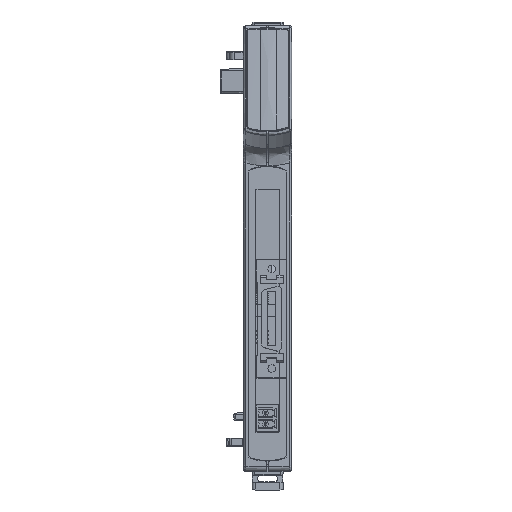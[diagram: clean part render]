
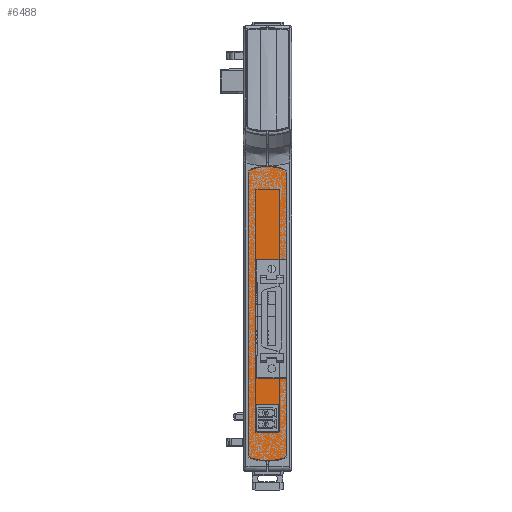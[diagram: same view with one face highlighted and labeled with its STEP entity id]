
A CAD part, top view. The second image highlights one B-rep face of the part: STEP entity #6488.
In plain terms, the highlighted planar face has unit normal (0, 0, 1).
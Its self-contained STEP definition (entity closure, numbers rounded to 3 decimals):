
#1223=FACE_BOUND('',#19021,.T.);
#6488=ADVANCED_FACE('',(#12612,#1223),#100989,.T.);
#12612=FACE_OUTER_BOUND('',#19020,.T.);
#19020=EDGE_LOOP('',(#48763,#48764,#48765,#48766,#48767,#48768,#48769,#48770,
#48771,#48772,#48773,#48774));
#19021=EDGE_LOOP('',(#48775,#48776,#48777,#48778));
#48763=ORIENTED_EDGE('',*,*,#67830,.T.);
#48764=ORIENTED_EDGE('',*,*,#67831,.T.);
#48765=ORIENTED_EDGE('',*,*,#67870,.T.);
#48766=ORIENTED_EDGE('',*,*,#67873,.T.);
#48767=ORIENTED_EDGE('',*,*,#67876,.T.);
#48768=ORIENTED_EDGE('',*,*,#67832,.T.);
#48769=ORIENTED_EDGE('',*,*,#67858,.T.);
#48770=ORIENTED_EDGE('',*,*,#67862,.T.);
#48771=ORIENTED_EDGE('',*,*,#67865,.T.);
#48772=ORIENTED_EDGE('',*,*,#67833,.T.);
#48773=ORIENTED_EDGE('',*,*,#67834,.T.);
#48774=ORIENTED_EDGE('',*,*,#67835,.T.);
#48775=ORIENTED_EDGE('',*,*,#67839,.T.);
#48776=ORIENTED_EDGE('',*,*,#67836,.T.);
#48777=ORIENTED_EDGE('',*,*,#67837,.T.);
#48778=ORIENTED_EDGE('',*,*,#67838,.T.);
#67830=EDGE_CURVE('',#96243,#96244,#81466,.T.);
#67831=EDGE_CURVE('',#96244,#96245,#81467,.T.);
#67832=EDGE_CURVE('',#96248,#96249,#81468,.T.);
#67833=EDGE_CURVE('',#96252,#96253,#81469,.T.);
#67834=EDGE_CURVE('',#96253,#96254,#81470,.T.);
#67835=EDGE_CURVE('',#96254,#96243,#81471,.T.);
#67836=EDGE_CURVE('',#96255,#96256,#81472,.T.);
#67837=EDGE_CURVE('',#96256,#96257,#81473,.T.);
#67838=EDGE_CURVE('',#96257,#96258,#81474,.T.);
#67839=EDGE_CURVE('',#96258,#96255,#81475,.T.);
#67858=EDGE_CURVE('',#96249,#96250,#86604,.T.);
#67862=EDGE_CURVE('',#96250,#96251,#86606,.T.);
#67865=EDGE_CURVE('',#96251,#96252,#86608,.T.);
#67870=EDGE_CURVE('',#96245,#96246,#86610,.T.);
#67873=EDGE_CURVE('',#96246,#96247,#86612,.T.);
#67876=EDGE_CURVE('',#96247,#96248,#86614,.T.);
#81466=B_SPLINE_CURVE_WITH_KNOTS('',1,(#234936,#234937),.UNSPECIFIED.,.F.,
 .F.,(2,2),(-9.559,0.),.UNSPECIFIED.);
#81467=B_SPLINE_CURVE_WITH_KNOTS('',1,(#234938,#234939),.UNSPECIFIED.,.F.,
 .F.,(2,2),(0.,27.248),.UNSPECIFIED.);
#81468=B_SPLINE_CURVE_WITH_KNOTS('',1,(#234940,#234941),.UNSPECIFIED.,.F.,
 .F.,(2,2),(0.,88.853),.UNSPECIFIED.);
#81469=B_SPLINE_CURVE_WITH_KNOTS('',1,(#234942,#234943),.UNSPECIFIED.,.F.,
 .F.,(2,2),(0.,24.176),.UNSPECIFIED.);
#81470=B_SPLINE_CURVE_WITH_KNOTS('',1,(#234944,#234945),.UNSPECIFIED.,.F.,
 .F.,(2,2),(-9.559,0.),.UNSPECIFIED.);
#81471=B_SPLINE_CURVE_WITH_KNOTS('',1,(#234946,#234947),.UNSPECIFIED.,.F.,
 .F.,(2,2),(-37.384,0.),.UNSPECIFIED.);
#81472=B_SPLINE_CURVE_WITH_KNOTS('',1,(#234948,#234949),.UNSPECIFIED.,.F.,
 .F.,(2,2),(-7.158,0.),.UNSPECIFIED.);
#81473=B_SPLINE_CURVE_WITH_KNOTS('',1,(#234950,#234951),.UNSPECIFIED.,.F.,
 .F.,(2,2),(0.,8.707),.UNSPECIFIED.);
#81474=B_SPLINE_CURVE_WITH_KNOTS('',1,(#234952,#234953),.UNSPECIFIED.,.F.,
 .F.,(2,2),(-7.158,0.),.UNSPECIFIED.);
#81475=B_SPLINE_CURVE_WITH_KNOTS('',1,(#234954,#234955),.UNSPECIFIED.,.F.,
 .F.,(2,2),(-8.707,0.),.UNSPECIFIED.);
#86604=(
BOUNDED_CURVE()
B_SPLINE_CURVE(2,(#234993,#234994,#234995),.UNSPECIFIED.,.F.,.F.)
B_SPLINE_CURVE_WITH_KNOTS((3,3),(0.,1.047),.UNSPECIFIED.)
CURVE()
GEOMETRIC_REPRESENTATION_ITEM()
RATIONAL_B_SPLINE_CURVE((1.,0.809,1.))
REPRESENTATION_ITEM('')
);
#86606=(
BOUNDED_CURVE()
B_SPLINE_CURVE(2,(#235003,#235004,#235005),.UNSPECIFIED.,.F.,.F.)
B_SPLINE_CURVE_WITH_KNOTS((3,3),(0.,10.875),.UNSPECIFIED.)
CURVE()
GEOMETRIC_REPRESENTATION_ITEM()
RATIONAL_B_SPLINE_CURVE((1.,0.951,1.))
REPRESENTATION_ITEM('')
);
#86608=(
BOUNDED_CURVE()
B_SPLINE_CURVE(2,(#235011,#235012,#235013),.UNSPECIFIED.,.F.,.F.)
B_SPLINE_CURVE_WITH_KNOTS((3,3),(0.,1.047),.UNSPECIFIED.)
CURVE()
GEOMETRIC_REPRESENTATION_ITEM()
RATIONAL_B_SPLINE_CURVE((1.,0.809,1.))
REPRESENTATION_ITEM('')
);
#86610=(
BOUNDED_CURVE()
B_SPLINE_CURVE(2,(#235023,#235024,#235025),.UNSPECIFIED.,.F.,.F.)
B_SPLINE_CURVE_WITH_KNOTS((3,3),(0.,0.988),.UNSPECIFIED.)
CURVE()
GEOMETRIC_REPRESENTATION_ITEM()
RATIONAL_B_SPLINE_CURVE((1.,0.83,1.))
REPRESENTATION_ITEM('')
);
#86612=(
BOUNDED_CURVE()
B_SPLINE_CURVE(2,(#235031,#235032,#235033),.UNSPECIFIED.,.F.,.F.)
B_SPLINE_CURVE_WITH_KNOTS((3,3),(0.,11.065),.UNSPECIFIED.)
CURVE()
GEOMETRIC_REPRESENTATION_ITEM()
RATIONAL_B_SPLINE_CURVE((1.,0.928,1.))
REPRESENTATION_ITEM('')
);
#86614=(
BOUNDED_CURVE()
B_SPLINE_CURVE(2,(#235039,#235040,#235041),.UNSPECIFIED.,.F.,.F.)
B_SPLINE_CURVE_WITH_KNOTS((3,3),(0.,0.996),.UNSPECIFIED.)
CURVE()
GEOMETRIC_REPRESENTATION_ITEM()
RATIONAL_B_SPLINE_CURVE((1.,0.827,1.))
REPRESENTATION_ITEM('')
);
#96243=VERTEX_POINT('',#234884);
#96244=VERTEX_POINT('',#234885);
#96245=VERTEX_POINT('',#234886);
#96246=VERTEX_POINT('',#234887);
#96247=VERTEX_POINT('',#234888);
#96248=VERTEX_POINT('',#234889);
#96249=VERTEX_POINT('',#234890);
#96250=VERTEX_POINT('',#234891);
#96251=VERTEX_POINT('',#234892);
#96252=VERTEX_POINT('',#234893);
#96253=VERTEX_POINT('',#234894);
#96254=VERTEX_POINT('',#234895);
#96255=VERTEX_POINT('',#234896);
#96256=VERTEX_POINT('',#234897);
#96257=VERTEX_POINT('',#234898);
#96258=VERTEX_POINT('',#234899);
#100989=PLANE('',#106999);
#106999=AXIS2_PLACEMENT_3D('',#234652,#110876,$);
#110876=DIRECTION('',(0.,0.,1.));
#234652=CARTESIAN_POINT('',(-7.367,-0.384,-18.1));
#234884=CARTESIAN_POINT('',(-3.895,73.149,-18.1));
#234885=CARTESIAN_POINT('',(5.664,73.149,-18.1));
#234886=CARTESIAN_POINT('',(5.664,100.397,-18.1));
#234887=CARTESIAN_POINT('',(5.144,101.17,-18.1));
#234888=CARTESIAN_POINT('',(-5.655,101.218,-18.1));
#234889=CARTESIAN_POINT('',(-6.182,100.442,-18.1));
#234890=CARTESIAN_POINT('',(-6.182,11.589,-18.1));
#234891=CARTESIAN_POINT('',(-5.606,10.796,-18.1));
#234892=CARTESIAN_POINT('',(5.089,10.796,-18.1));
#234893=CARTESIAN_POINT('',(5.664,11.589,-18.1));
#234894=CARTESIAN_POINT('',(5.664,35.765,-18.1));
#234895=CARTESIAN_POINT('',(-3.895,35.765,-18.1));
#234896=CARTESIAN_POINT('',(-3.895,27.565,-18.1));
#234897=CARTESIAN_POINT('',(3.263,27.565,-18.1));
#234898=CARTESIAN_POINT('',(3.263,18.857,-18.1));
#234899=CARTESIAN_POINT('',(-3.895,18.857,-18.1));
#234936=CARTESIAN_POINT('',(-3.895,73.149,-18.1));
#234937=CARTESIAN_POINT('',(5.664,73.149,-18.1));
#234938=CARTESIAN_POINT('',(5.664,73.149,-18.1));
#234939=CARTESIAN_POINT('',(5.664,100.397,-18.1));
#234940=CARTESIAN_POINT('',(-6.182,100.442,-18.1));
#234941=CARTESIAN_POINT('',(-6.182,11.589,-18.1));
#234942=CARTESIAN_POINT('',(5.664,11.589,-18.1));
#234943=CARTESIAN_POINT('',(5.664,35.765,-18.1));
#234944=CARTESIAN_POINT('',(5.664,35.765,-18.1));
#234945=CARTESIAN_POINT('',(-3.895,35.765,-18.1));
#234946=CARTESIAN_POINT('',(-3.895,35.765,-18.1));
#234947=CARTESIAN_POINT('',(-3.895,73.149,-18.1));
#234948=CARTESIAN_POINT('',(-3.895,27.565,-18.1));
#234949=CARTESIAN_POINT('',(3.263,27.565,-18.1));
#234950=CARTESIAN_POINT('',(3.263,27.565,-18.1));
#234951=CARTESIAN_POINT('',(3.263,18.857,-18.1));
#234952=CARTESIAN_POINT('',(3.263,18.857,-18.1));
#234953=CARTESIAN_POINT('',(-3.895,18.857,-18.1));
#234954=CARTESIAN_POINT('',(-3.895,18.857,-18.1));
#234955=CARTESIAN_POINT('',(-3.895,27.565,-18.1));
#234993=CARTESIAN_POINT('',(-6.182,11.589,-18.1));
#234994=CARTESIAN_POINT('',(-6.182,10.984,-18.1));
#234995=CARTESIAN_POINT('',(-5.606,10.796,-18.1));
#235003=CARTESIAN_POINT('',(-5.606,10.796,-18.1));
#235004=CARTESIAN_POINT('',(-0.259,9.049,-18.1));
#235005=CARTESIAN_POINT('',(5.089,10.796,-18.1));
#235011=CARTESIAN_POINT('',(5.089,10.796,-18.1));
#235012=CARTESIAN_POINT('',(5.664,10.984,-18.1));
#235013=CARTESIAN_POINT('',(5.664,11.589,-18.1));
#235023=CARTESIAN_POINT('',(5.664,100.397,-18.1));
#235024=CARTESIAN_POINT('',(5.664,100.958,-18.1));
#235025=CARTESIAN_POINT('',(5.144,101.17,-18.1));
#235031=CARTESIAN_POINT('',(5.144,101.17,-18.1));
#235032=CARTESIAN_POINT('',(-0.246,103.361,-18.1));
#235033=CARTESIAN_POINT('',(-5.655,101.218,-18.1));
#235039=CARTESIAN_POINT('',(-5.655,101.218,-18.1));
#235040=CARTESIAN_POINT('',(-6.182,101.009,-18.1));
#235041=CARTESIAN_POINT('',(-6.182,100.442,-18.1));
